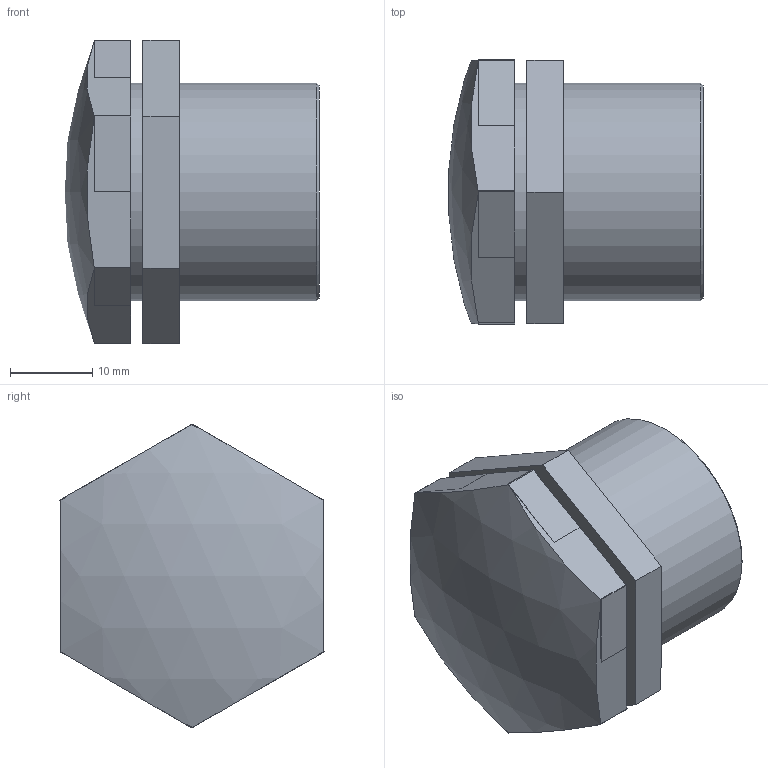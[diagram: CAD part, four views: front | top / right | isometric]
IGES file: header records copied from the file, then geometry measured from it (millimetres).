
Global section: file name: 051707007_0517070070A.ipt; native system: Autodesk Inventor 2015; preprocessor: unknown; author: Кирилл,,11,0; organization: 20170503.073136; date: 20170618.093333; units: millimetre
Bounding box: 30.92 x 32.13 x 36.95 mm (x, y, z)
Volume: 11120.6 mm3; surface area: 6770 mm2
Topology: 7 solids, 7 shells, 52 faces, 127 edges, 93 vertices
Faces by surface type: plane 40, revolution 8, cylinder 2, sphere 1, cone 1
Full cylindrical faces by diameter (mm): 26.441 x2
